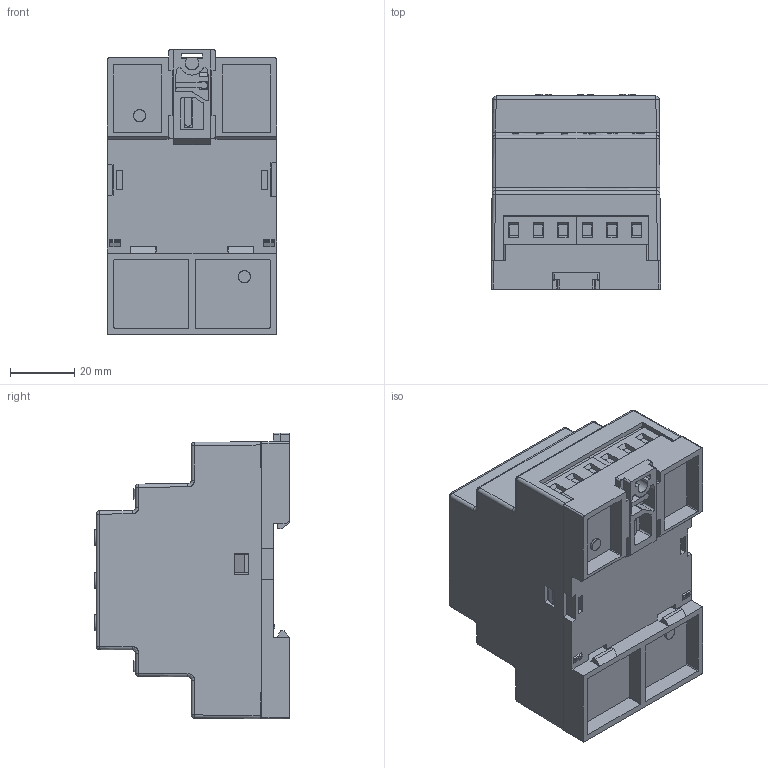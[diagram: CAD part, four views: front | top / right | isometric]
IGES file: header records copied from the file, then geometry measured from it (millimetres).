
Start section: SolidWorks IGES file using analytic representation for surfaces
Global section: file name: C:\Documents and Settings\All Users\Documents\Josh\Projects\Macromatic\070615\To Eric\TR-5 Series - 5 knob.IGS; native system: SolidWorks 2007; preprocessor: SolidWorks 2007; author: Josh; date: 150714.211346; units: inch
Bounding box: 52.5 x 60.5 x 88.62 mm (x, y, z)
Surface area: 63890.7 mm2 (no closed solid volume)
Topology: 0 solids, 0 shells, 1220 faces, 10669 edges, 10669 vertices
Faces by surface type: bspline 1010, revolution 210
